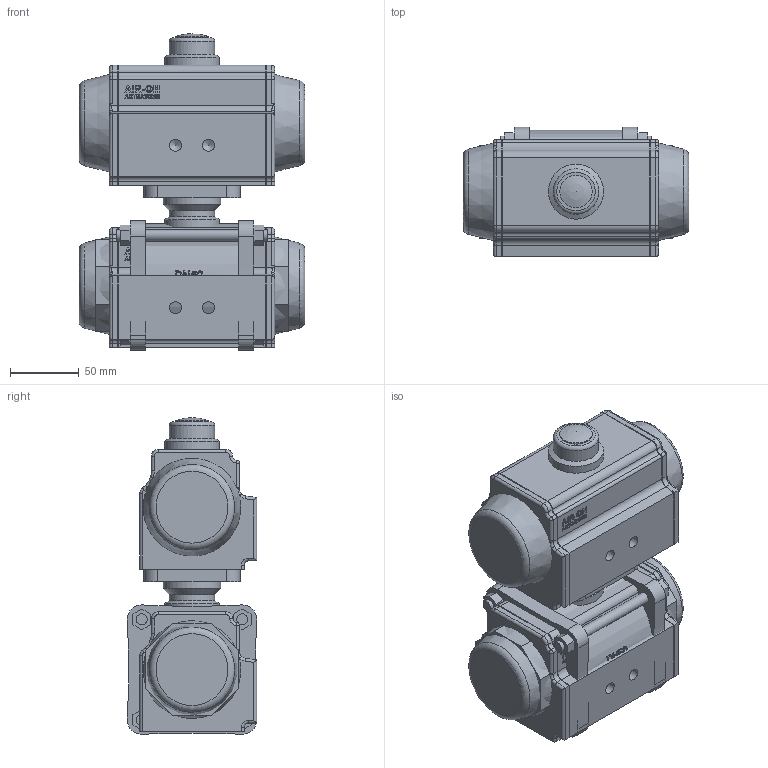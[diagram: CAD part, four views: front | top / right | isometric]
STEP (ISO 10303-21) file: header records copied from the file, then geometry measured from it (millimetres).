
FILE_DESCRIPTION( ( 'Unknown' ), '1' );
FILE_NAME( 'W:/ECCUA/ROOTSI BPS 3D vidinad/Kuulkraanid/Roostevaba kuulkraanid/Ball valve BPS 2420/Ball valve with pneumatic actuator BPS/STEP format/BPS 2420050P ball valve DN50.stp', 'Unknown', ( 'Unknown' ), ( 'Unknown' ), 'PSStep 10.1', 'Unknown', ' ' );
FILE_SCHEMA( ( 'AUTOMOTIVE_DESIGN { 1 0 10303 214 1 1 1 1 }' ) );
Length unit declared in the file: millimetre
Products named in the file (5): Assem1; BPS 2420050 ball valve DN50; BPS 8300063DA-SR pneumatic actuator
Bounding box: 164 x 93.98 x 229.98 mm (x, y, z)
Volume: 3089173.9 mm3; surface area: 385387.7 mm2
Topology: 8 solids, 8 shells, 1096 faces, 2728 edges, 1788 vertices
Faces by surface type: plane 484, cylinder 244, extrusion 202, bspline 94, torus 38, cone 28, sphere 6
Full cylindrical faces by diameter (mm): 4.917 x8, 6.647 x8, 8 x24, 8.566 x4, 23.5 x2, 33 x4, 40 x2, 42 x2, 50 x2, 56.656 x4, 90 x2
Entity records: 27048 total; most frequent: CARTESIAN_POINT 10641, ORIENTED_EDGE 2542, DIRECTION 2008, EDGE_CURVE 1271, VERTEX_POINT 874, VECTOR 718, EDGE_LOOP 699, AXIS2_PLACEMENT_3D 645
